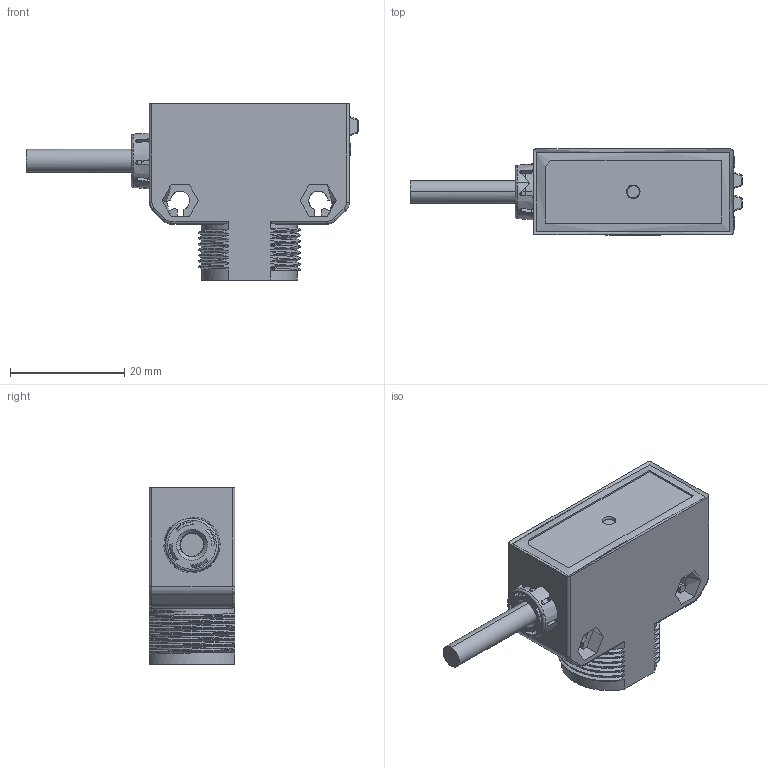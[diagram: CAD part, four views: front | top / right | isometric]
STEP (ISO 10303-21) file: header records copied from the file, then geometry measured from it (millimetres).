
FILE_DESCRIPTION (( 'STEP AP214' ), '1' );
FILE_NAME ('PT18V-D.STEP', '2025-10-16T01:30:11', ( 'Windows User' ), ( 'P R C' ), 'SwSTEP 2.0', 'SolidWorks 2023', '' );
FILE_SCHEMA (( 'AUTOMOTIVE_DESIGN' ));
Length unit declared in the file: millimetre
Products named in the file (1): PT18V-D
Bounding box: 58 x 15 x 30.8 mm (x, y, z)
Surface area: 5019.3 mm2 (no closed solid volume)
Topology: 0 solids, 3 shells, 380 faces, 1146 edges, 741 vertices
Faces by surface type: plane 179, cylinder 111, bspline 82, cone 8
Entity records: 21168 total; most frequent: CARTESIAN_POINT 13656, ORIENTED_EDGE 2097, EDGE_CURVE 1127, B_SPLINE_CURVE_WITH_KNOTS 1097, VERTEX_POINT 741, DIRECTION 598, EDGE_LOOP 403, FACE_OUTER_BOUND 380
